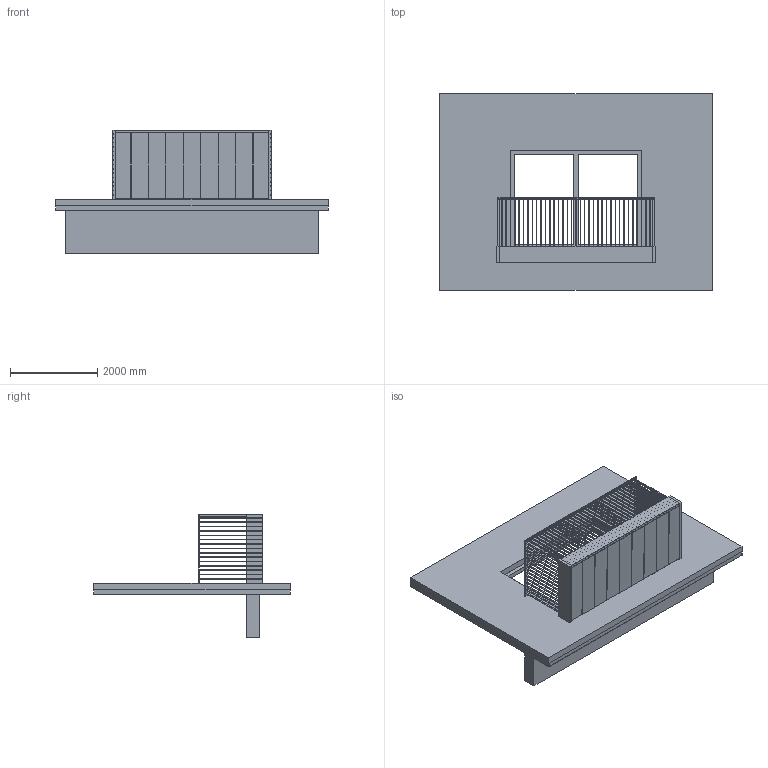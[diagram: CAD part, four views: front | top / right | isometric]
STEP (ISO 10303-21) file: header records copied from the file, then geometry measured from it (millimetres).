
FILE_DESCRIPTION(/* description */ ('5.687712'),/* implementation_level */ '2;1');
FILE_NAME(/* name */ 'Z:\Temp\1B533782623F901\idgts44a.hxs\Temp\4vjc0z2x..stp',/* time_stamp */ '2019-07-11T09:33:53+00:00',/* author */ ('5.25'),/* organization */ (''),/* preprocessor_version */ 'ST-DEVELOPER v18',/* originating_system */ 'Autodesk Inventor 2020',/* authorisation */ '');
FILE_SCHEMA (('AUTOMOTIVE_DESIGN { 1 0 10303 214 3 1 1 }'));
Length unit declared in the file: millimetre
Products named in the file (18): 1; Balcony Base; Vertical_Post_Front; Soffit Panel Front Drain; 139 x 21 Deck Plank; Fascia Front; Fascia RH; Fascia LH; 60 x 28 Capping Front; 60 x 28 Capping LH; 60 x 28 Capping RH; Facade; Glass Capping Square Front; Facade Door Insert; Vertical Back Strip; Facade Inside; Vertical_Post_LH; Vertical_Post_RH
Assembly tree (79 placements, depth 2):
  1
    Balcony Base
    Vertical_Post_Front  x35
    Vertical_Post_LH  x15
    Vertical_Post_RH  x15
    Soffit Panel Front Drain
    139 x 21 Deck Plank
    Fascia Front
    Fascia RH
    Fascia LH
    60 x 28 Capping Front
    60 x 28 Capping LH
    60 x 28 Capping RH
    Facade
    Glass Capping Square Front
    Facade Door Insert
    Vertical Back Strip
    Facade Inside
Bounding box: 6250 x 4500 x 2836 mm (x, y, z)
Volume: 11629089183.1 mm3; surface area: 177298790.3 mm2
Topology: 79 solids, 79 shells, 897 faces, 2202 edges, 1468 vertices
Faces by surface type: plane 861, cylinder 36
Entity records: 17870 total; most frequent: CARTESIAN_POINT 3053, ORIENTED_EDGE 2916, DIRECTION 2776, EDGE_CURVE 1458, LINE 1386, VECTOR 1386, VERTEX_POINT 972, AXIS2_PLACEMENT_3D 695
